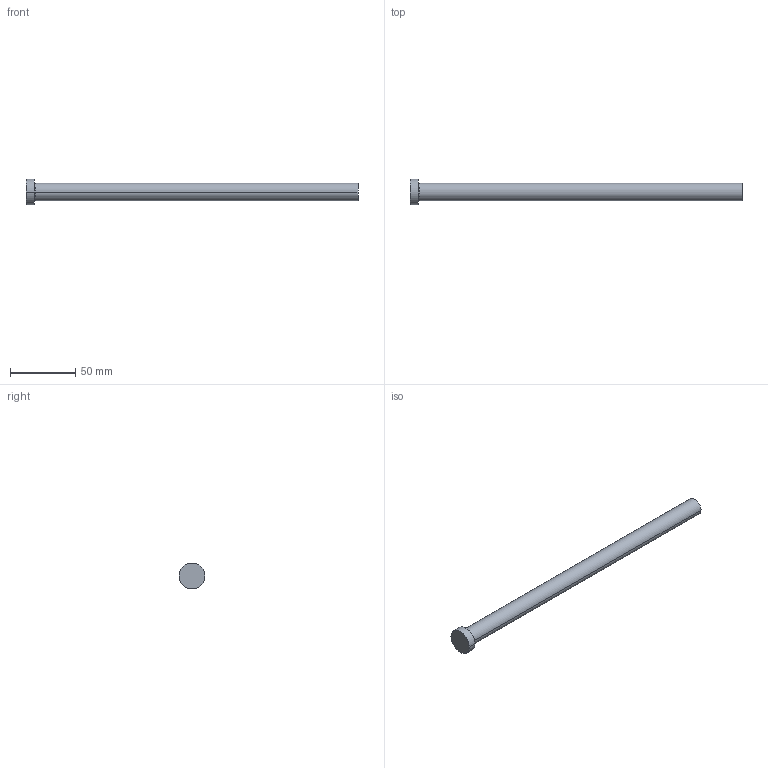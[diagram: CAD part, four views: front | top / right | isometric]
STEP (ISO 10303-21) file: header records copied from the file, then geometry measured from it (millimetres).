
FILE_DESCRIPTION (( 'STEP AP214' ), '1' );
FILE_NAME ('P34-10.STEP', '2020-03-12T11:51:10', ( '' ), ( '' ), 'SwSTEP 2.0', 'SolidWorks 2018', '' );
FILE_SCHEMA (( 'AUTOMOTIVE_DESIGN' ));
Length unit declared in the file: inch
Products named in the file (1): P34-10
Bounding box: 254 x 19.84 x 19.84 mm (x, y, z)
Volume: 37317.5 mm3; surface area: 11481.8 mm2
Topology: 1 solids, 1 shells, 13 faces, 24 edges, 14 vertices
Faces by surface type: cone 4, cylinder 4, plane 3, torus 2
Entity records: 366 total; most frequent: DIRECTION 68, CARTESIAN_POINT 52, ORIENTED_EDGE 48, AXIS2_PLACEMENT_3D 30, EDGE_CURVE 24, CIRCLE 16, VERTEX_POINT 14, EDGE_LOOP 14
